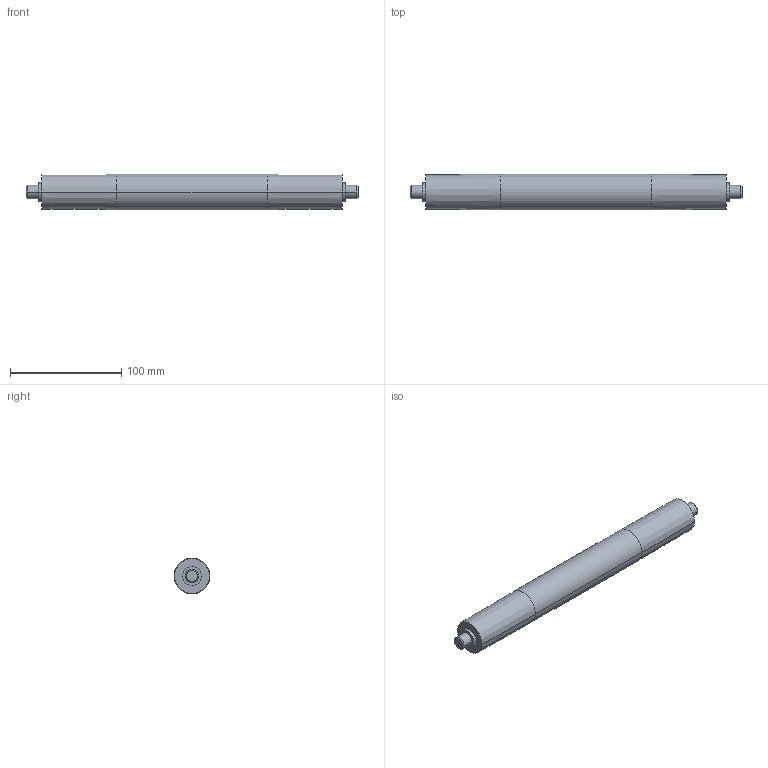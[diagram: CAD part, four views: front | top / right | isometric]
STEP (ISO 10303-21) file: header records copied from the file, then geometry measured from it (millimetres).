
FILE_DESCRIPTION (( 'STEP AP214' ), '1' );
FILE_NAME ('084.030.210.STEP', '2021-02-05T15:54:44', ( '' ), ( '' ), 'SwSTEP 2.0', 'SolidWorks 2018', '' );
FILE_SCHEMA (( 'AUTOMOTIVE_DESIGN' ));
Length unit declared in the file: millimetre
Products named in the file (1): 084.030.210
Bounding box: 298 x 32 x 32 mm (x, y, z)
Volume: 217603.7 mm3; surface area: 29544.3 mm2
Topology: 1 solids, 1 shells, 24 faces, 46 edges, 28 vertices
Faces by surface type: cylinder 10, cone 8, plane 6
Entity records: 648 total; most frequent: DIRECTION 124, CARTESIAN_POINT 99, ORIENTED_EDGE 92, AXIS2_PLACEMENT_3D 53, EDGE_CURVE 46, EDGE_LOOP 28, CIRCLE 28, VERTEX_POINT 28
